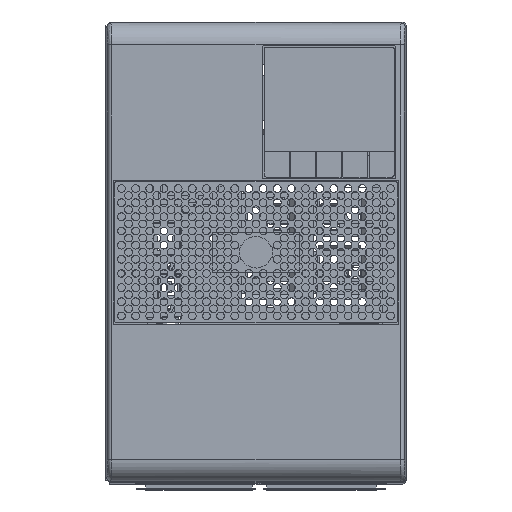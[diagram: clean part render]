
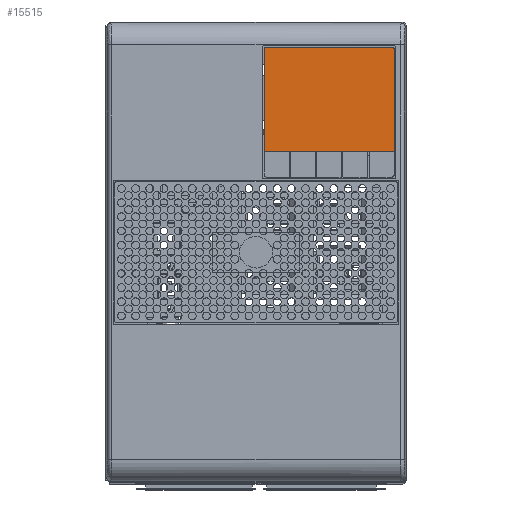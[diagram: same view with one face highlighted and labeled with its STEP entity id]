
A CAD part, top view. The second image highlights one B-rep face of the part: STEP entity #15515.
In plain terms, the highlighted planar face has unit normal (0, 0, 1).
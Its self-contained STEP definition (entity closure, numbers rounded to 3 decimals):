
#15452=CARTESIAN_POINT('',(4.026,101.474,0.));
#15453=CARTESIAN_POINT('',(4.026,101.557,0.));
#15454=CARTESIAN_POINT('',(4.046,101.704,0.));
#15455=CARTESIAN_POINT('',(4.132,101.952,0.));
#15456=CARTESIAN_POINT('',(4.305,102.195,0.));
#15457=CARTESIAN_POINT('',(4.548,102.368,0.));
#15458=CARTESIAN_POINT('',(4.796,102.454,0.));
#15459=CARTESIAN_POINT('',(4.943,102.474,0.));
#15460=CARTESIAN_POINT('',(5.026,102.474,0.));
#15462=DIRECTION('',(1.,0.,0.));
#15463=VECTOR('',#15462,62.948);
#15464=CARTESIAN_POINT('',(5.026,102.474,0.));
#15465=LINE('',#15464,#15463);
#15466=CARTESIAN_POINT('',(67.974,102.474,0.));
#15467=CARTESIAN_POINT('',(68.057,102.474,0.));
#15468=CARTESIAN_POINT('',(68.204,102.454,0.));
#15469=CARTESIAN_POINT('',(68.452,102.368,0.));
#15470=CARTESIAN_POINT('',(68.695,102.195,0.));
#15471=CARTESIAN_POINT('',(68.868,101.952,0.));
#15472=CARTESIAN_POINT('',(68.954,101.704,0.));
#15473=CARTESIAN_POINT('',(68.974,101.557,0.));
#15474=CARTESIAN_POINT('',(68.974,101.474,0.));
#15476=DIRECTION('',(0.,-1.,0.));
#15477=VECTOR('',#15476,50.961);
#15478=CARTESIAN_POINT('',(68.974,101.474,0.));
#15479=LINE('',#15478,#15477);
#15480=DIRECTION('',(-1.,0.,0.));
#15481=VECTOR('',#15480,64.948);
#15482=CARTESIAN_POINT('',(68.974,50.513,0.));
#15483=LINE('',#15482,#15481);
#15484=DIRECTION('',(0.,1.,0.));
#15485=VECTOR('',#15484,50.961);
#15486=CARTESIAN_POINT('',(4.026,50.513,0.));
#15487=LINE('',#15486,#15485);
#15488=CARTESIAN_POINT('',(4.026,50.513,0.));
#15489=CARTESIAN_POINT('',(68.974,50.513,0.));
#15490=VERTEX_POINT('',#15488);
#15491=VERTEX_POINT('',#15489);
#15492=VERTEX_POINT('',#15460);
#15493=VERTEX_POINT('',#15452);
#15494=VERTEX_POINT('',#15474);
#15495=VERTEX_POINT('',#15466);
#15496=CARTESIAN_POINT('',(36.5,70.,0.));
#15497=DIRECTION('',(0.,0.,1.));
#15498=DIRECTION('',(1.,0.,0.));
#15499=AXIS2_PLACEMENT_3D('',#15496,#15497,#15498);
#15500=PLANE('',#15499);
#15502=ORIENTED_EDGE('',*,*,#15501,.T.);
#15504=ORIENTED_EDGE('',*,*,#15503,.T.);
#15506=ORIENTED_EDGE('',*,*,#15505,.T.);
#15508=ORIENTED_EDGE('',*,*,#15507,.T.);
#15510=ORIENTED_EDGE('',*,*,#15509,.T.);
#15512=ORIENTED_EDGE('',*,*,#15511,.T.);
#15513=EDGE_LOOP('',(#15502,#15504,#15506,#15508,#15510,#15512));
#15514=FACE_OUTER_BOUND('',#15513,.F.);
#15515=ADVANCED_FACE('',(#15514),#15500,.T.);
#15461=B_SPLINE_CURVE_WITH_KNOTS('',3,(#15452,#15453,#15454,#15455,#15456,
#15457,#15458,#15459,#15460),.UNSPECIFIED.,.F.,.F.,(4,1,1,1,1,1,4),(0.,
0.125,0.25,0.5,0.75,0.875,1.),.UNSPECIFIED.);
#15475=B_SPLINE_CURVE_WITH_KNOTS('',3,(#15466,#15467,#15468,#15469,#15470,
#15471,#15472,#15473,#15474),.UNSPECIFIED.,.F.,.F.,(4,1,1,1,1,1,4),(0.,
0.125,0.25,0.5,0.75,0.875,1.),.UNSPECIFIED.);
#15501=EDGE_CURVE('',#15493,#15492,#15461,.T.);
#15503=EDGE_CURVE('',#15492,#15495,#15465,.T.);
#15505=EDGE_CURVE('',#15495,#15494,#15475,.T.);
#15507=EDGE_CURVE('',#15494,#15491,#15479,.T.);
#15509=EDGE_CURVE('',#15491,#15490,#15483,.T.);
#15511=EDGE_CURVE('',#15490,#15493,#15487,.T.);
